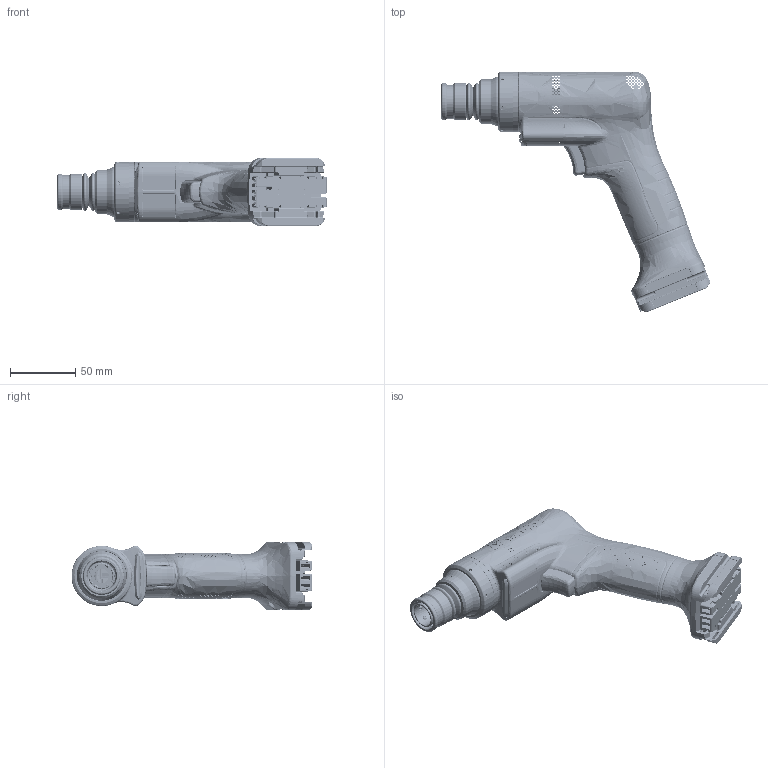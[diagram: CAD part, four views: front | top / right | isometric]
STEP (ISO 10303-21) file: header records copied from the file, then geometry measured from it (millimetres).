
FILE_DESCRIPTION((''),'2;1');
FILE_NAME('6151762910_DIM','2021-02-17T07:55:25',('gre_svc_itools'),(''),'CREO PARAMETRIC BY PTC INC, 2019080','CREO PARAMETRIC BY PTC INC, 2019080','');
FILE_SCHEMA(('AP242_MANAGED_MODEL_BASED_3D_ENGINEERING_MIM_LF { 1 0 10303 442 1 1 4 }'));
Products named in the file (1): 6151762910_DIM
Bounding box: 205.92 x 184.36 x 52 mm (x, y, z)
Surface area: 119237.9 mm2 (no closed solid volume)
Topology: 0 solids, 470 shells, 7350 faces, 27232 edges, 19399 vertices
Faces by surface type: bspline 4081, plane 1288, cylinder 1074, torus 350, cone 288, extrusion 178, sphere 87, revolution 4
Entity records: 641340 total; most frequent: CARTESIAN_POINT 461874, ORIENTED_EDGE 39578, EDGE_CURVE 27200, DIRECTION 23152, VERTEX_POINT 19399, B_SPLINE_CURVE_WITH_KNOTS 16143, AXIS2_PLACEMENT_3D 8644, EDGE_LOOP 8127
